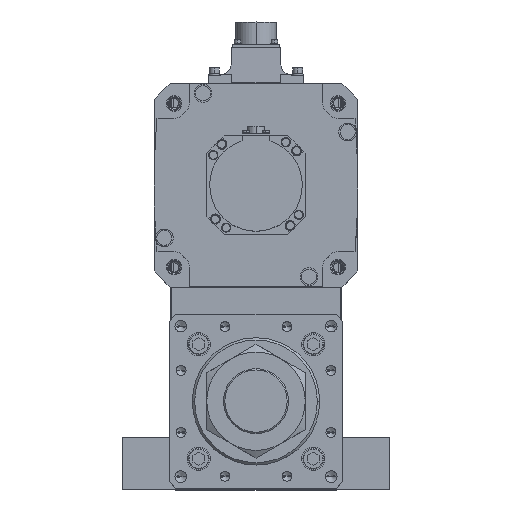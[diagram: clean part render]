
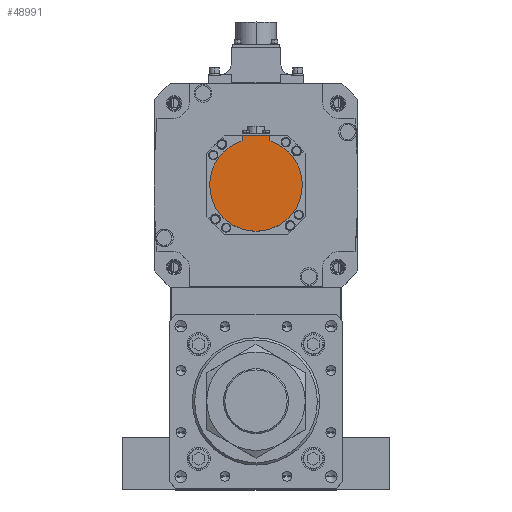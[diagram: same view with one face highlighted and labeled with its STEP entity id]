
A CAD part, top view. The second image highlights one B-rep face of the part: STEP entity #48991.
In plain terms, the highlighted planar face has unit normal (0, 0, 1) as drawn and (0, 0, -1) by its records, which use the part's own axes.
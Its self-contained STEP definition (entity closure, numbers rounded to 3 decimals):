
#29 = EDGE_CURVE ( 'NONE', #42976, #6685, #36856, .T. ) ;
#549 = FACE_OUTER_BOUND ( 'NONE', #7589, .T. ) ;
#2090 = ORIENTED_EDGE ( 'NONE', *, *, #40566, .F. ) ;
#2202 = AXIS2_PLACEMENT_3D ( 'NONE', #6040, #35184, #23362 ) ;
#4041 = CARTESIAN_POINT ( 'NONE',  ( -12., -40.329, -162.5 ) ) ;
#4667 = DIRECTION ( 'NONE',  ( 0., 0., 1. ) ) ;
#6040 = CARTESIAN_POINT ( 'NONE',  ( 0., -1.249, -162.5 ) ) ;
#6685 = VERTEX_POINT ( 'NONE', #18580 ) ;
#7589 = EDGE_LOOP ( 'NONE', ( #15905, #50237, #13968, #11878, #2090, #10675 ) ) ;
#8327 = EDGE_CURVE ( 'NONE', #36014, #48708, #40711, .T. ) ;
#8454 = CARTESIAN_POINT ( 'NONE',  ( -12., -42.5, -162.5 ) ) ;
#10255 = AXIS2_PLACEMENT_3D ( 'NONE', #37813, #50385, #33627 ) ;
#10675 = ORIENTED_EDGE ( 'NONE', *, *, #8327, .T. ) ;
#11878 = ORIENTED_EDGE ( 'NONE', *, *, #29, .F. ) ;
#12327 = DIRECTION ( 'NONE',  ( 0., 0., 1. ) ) ;
#12446 = DIRECTION ( 'NONE',  ( 0., 1., 0. ) ) ;
#13240 = CARTESIAN_POINT ( 'NONE',  ( 12., -42.5, -162.5 ) ) ;
#13818 = CARTESIAN_POINT ( 'NONE',  ( -40., 0., -162.5 ) ) ;
#13939 = EDGE_CURVE ( 'NONE', #6685, #35578, #51549, .T. ) ;
#13968 = ORIENTED_EDGE ( 'NONE', *, *, #13939, .F. ) ;
#15600 = VECTOR ( 'NONE', #12446, 1000. ) ;
#15905 = ORIENTED_EDGE ( 'NONE', *, *, #20910, .T. ) ;
#17121 = CARTESIAN_POINT ( 'NONE',  ( 0., 0., -162.5 ) ) ;
#18580 = CARTESIAN_POINT ( 'NONE',  ( 40., 0., -162.5 ) ) ;
#20377 = CARTESIAN_POINT ( 'NONE',  ( -12., -38.158, -162.5 ) ) ;
#20910 = EDGE_CURVE ( 'NONE', #48708, #40893, #25407, .T. ) ;
#21580 = CARTESIAN_POINT ( 'NONE',  ( 12., -1.249, -162.5 ) ) ;
#22822 = PLANE ( 'NONE',  #2202 ) ;
#23362 = DIRECTION ( 'NONE',  ( 1., 0., 0. ) ) ;
#23792 = VECTOR ( 'NONE', #25971, 1000. ) ;
#25407 = LINE ( 'NONE', #4041, #15600 ) ;
#25933 = DIRECTION ( 'NONE',  ( 0., 1., 0. ) ) ;
#25971 = DIRECTION ( 'NONE',  ( -1., 0., 0. ) ) ;
#28501 = VECTOR ( 'NONE', #25933, 1000. ) ;
#30361 = DIRECTION ( 'NONE',  ( 1., 0., 0. ) ) ;
#32014 = CARTESIAN_POINT ( 'NONE',  ( 12., -38.158, -162.5 ) ) ;
#33627 = DIRECTION ( 'NONE',  ( 1., 0., 0. ) ) ;
#35184 = DIRECTION ( 'NONE',  ( 0., 0., 1. ) ) ;
#35578 = VERTEX_POINT ( 'NONE', #13818 ) ;
#35990 = EDGE_CURVE ( 'NONE', #35578, #40893, #40512, .T. ) ;
#36014 = VERTEX_POINT ( 'NONE', #13240 ) ;
#36856 = CIRCLE ( 'NONE', #50375, 40. ) ;
#37813 = CARTESIAN_POINT ( 'NONE',  ( 0., 0., -162.5 ) ) ;
#40512 = CIRCLE ( 'NONE', #10255, 40. ) ;
#40566 = EDGE_CURVE ( 'NONE', #36014, #42976, #44079, .T. ) ;
#40711 = LINE ( 'NONE', #45822, #23792 ) ;
#40893 = VERTEX_POINT ( 'NONE', #20377 ) ;
#41563 = AXIS2_PLACEMENT_3D ( 'NONE', #50538, #12327, #41803 ) ;
#41803 = DIRECTION ( 'NONE',  ( 1., 0., 0. ) ) ;
#42976 = VERTEX_POINT ( 'NONE', #32014 ) ;
#44079 = LINE ( 'NONE', #21580, #28501 ) ;
#45822 = CARTESIAN_POINT ( 'NONE',  ( 0., -42.5, -162.5 ) ) ;
#48708 = VERTEX_POINT ( 'NONE', #8454 ) ;
#48991 = ADVANCED_FACE ( 'NONE', ( #549 ), #22822, .F. ) ;
#50237 = ORIENTED_EDGE ( 'NONE', *, *, #35990, .F. ) ;
#50375 = AXIS2_PLACEMENT_3D ( 'NONE', #17121, #4667, #30361 ) ;
#50385 = DIRECTION ( 'NONE',  ( 0., 0., 1. ) ) ;
#50538 = CARTESIAN_POINT ( 'NONE',  ( 0., 0., -162.5 ) ) ;
#51549 = CIRCLE ( 'NONE', #41563, 40. ) ;
